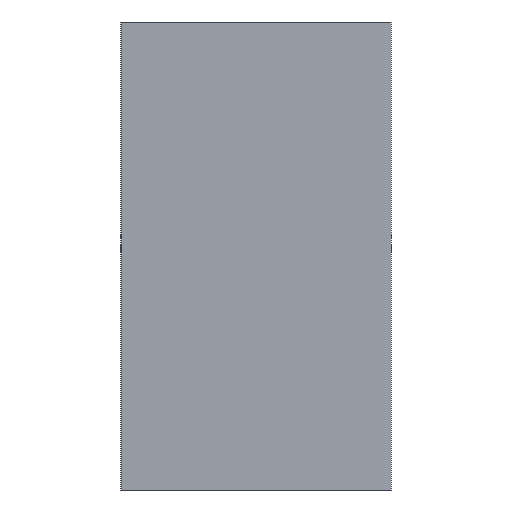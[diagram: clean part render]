
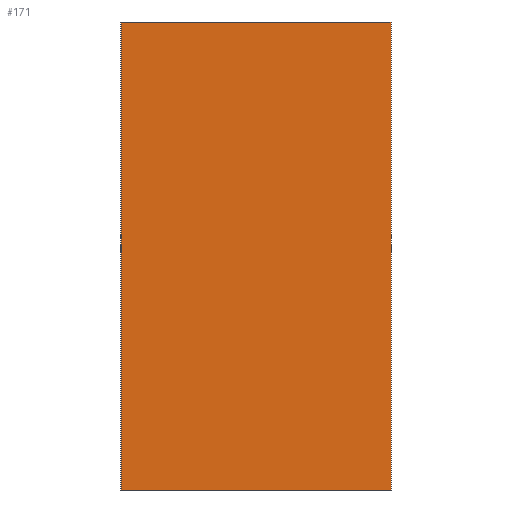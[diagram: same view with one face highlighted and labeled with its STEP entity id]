
A CAD part, front view. The second image highlights one B-rep face of the part: STEP entity #171.
In plain terms, the highlighted planar face has unit normal (0, -1, 0).
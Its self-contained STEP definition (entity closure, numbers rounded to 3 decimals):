
#20 = CARTESIAN_POINT ( 'NONE',  ( 1.5, -21.9, 0. ) ) ;
#22 = CARTESIAN_POINT ( 'NONE',  ( -1.5, -21.9, 5.2 ) ) ;
#28 = ORIENTED_EDGE ( 'NONE', *, *, #96, .F. ) ;
#36 = CARTESIAN_POINT ( 'NONE',  ( 1.5, -21.9, 5.2 ) ) ;
#56 = AXIS2_PLACEMENT_3D ( 'NONE', #180, #75, #200 ) ;
#63 = VECTOR ( 'NONE', #92, 1000. ) ;
#64 = EDGE_LOOP ( 'NONE', ( #70, #107, #28, #196 ) ) ;
#70 = ORIENTED_EDGE ( 'NONE', *, *, #186, .T. ) ;
#74 = PLANE ( 'NONE',  #56 ) ;
#75 = DIRECTION ( 'NONE',  ( 0., 1., 0. ) ) ;
#85 = EDGE_CURVE ( 'NONE', #113, #123, #188, .T. ) ;
#92 = DIRECTION ( 'NONE',  ( 1., 0., 0. ) ) ;
#93 = CARTESIAN_POINT ( 'NONE',  ( -1.5, -21.9, 5.2 ) ) ;
#96 = EDGE_CURVE ( 'NONE', #113, #125, #110, .T. ) ;
#100 = VECTOR ( 'NONE', #205, 1000. ) ;
#105 = EDGE_CURVE ( 'NONE', #125, #181, #168, .T. ) ;
#107 = ORIENTED_EDGE ( 'NONE', *, *, #105, .F. ) ;
#110 = LINE ( 'NONE', #22, #63 ) ;
#113 = VERTEX_POINT ( 'NONE', #150 ) ;
#123 = VERTEX_POINT ( 'NONE', #223 ) ;
#125 = VERTEX_POINT ( 'NONE', #36 ) ;
#127 = DIRECTION ( 'NONE',  ( 1., 0., 0. ) ) ;
#144 = LINE ( 'NONE', #167, #236 ) ;
#150 = CARTESIAN_POINT ( 'NONE',  ( -1.5, -21.9, 5.2 ) ) ;
#167 = CARTESIAN_POINT ( 'NONE',  ( -1.5, -21.9, 0. ) ) ;
#168 = LINE ( 'NONE', #170, #100 ) ;
#170 = CARTESIAN_POINT ( 'NONE',  ( 1.5, -21.9, 5.2 ) ) ;
#171 = ADVANCED_FACE ( 'NONE', ( #182 ), #74, .F. ) ;
#174 = DIRECTION ( 'NONE',  ( 0., 0., -1. ) ) ;
#180 = CARTESIAN_POINT ( 'NONE',  ( -1.5, -21.9, 5.2 ) ) ;
#181 = VERTEX_POINT ( 'NONE', #20 ) ;
#182 = FACE_OUTER_BOUND ( 'NONE', #64, .T. ) ;
#186 = EDGE_CURVE ( 'NONE', #123, #181, #144, .T. ) ;
#188 = LINE ( 'NONE', #93, #192 ) ;
#192 = VECTOR ( 'NONE', #174, 1000. ) ;
#196 = ORIENTED_EDGE ( 'NONE', *, *, #85, .T. ) ;
#200 = DIRECTION ( 'NONE',  ( 0., 0., 1. ) ) ;
#205 = DIRECTION ( 'NONE',  ( 0., 0., -1. ) ) ;
#223 = CARTESIAN_POINT ( 'NONE',  ( -1.5, -21.9, 0. ) ) ;
#236 = VECTOR ( 'NONE', #127, 1000. ) ;
